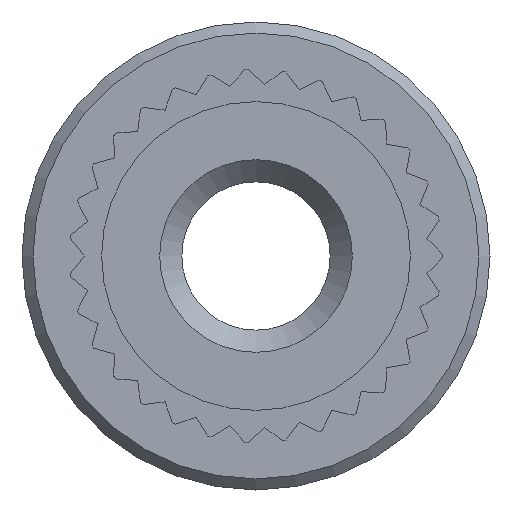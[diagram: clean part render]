
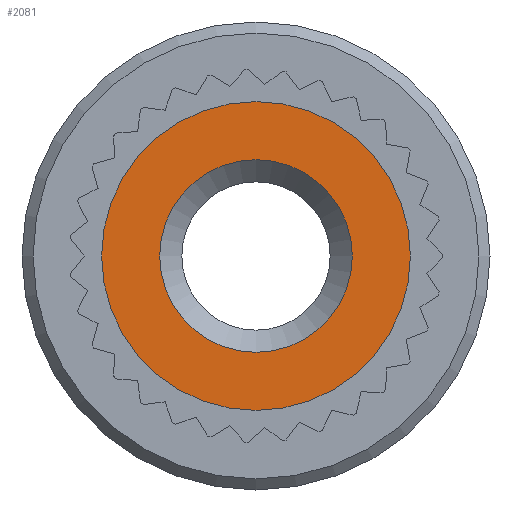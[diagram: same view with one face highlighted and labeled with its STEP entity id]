
A CAD part, front view. The second image highlights one B-rep face of the part: STEP entity #2081.
In plain terms, the highlighted planar face has unit normal (0, -1, 0).
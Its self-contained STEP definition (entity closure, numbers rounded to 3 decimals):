
#18=FACE_BOUND('',#331,.T.);
#84=PLANE('',#2284);
#221=FACE_OUTER_BOUND('',#330,.T.);
#330=EDGE_LOOP('',(#1957));
#331=EDGE_LOOP('',(#1958));
#861=CIRCLE('',#2283,1.307);
#862=CIRCLE('',#2285,2.095);
#1062=VERTEX_POINT('',#3480);
#1063=VERTEX_POINT('',#3484);
#1361=EDGE_CURVE('',#1062,#1062,#861,.T.);
#1363=EDGE_CURVE('',#1063,#1063,#862,.T.);
#1957=ORIENTED_EDGE('',*,*,#1363,.F.);
#1958=ORIENTED_EDGE('',*,*,#1361,.F.);
#2081=ADVANCED_FACE('',(#221,#18),#84,.T.);
#2283=AXIS2_PLACEMENT_3D('',#3481,#2864,#2865);
#2284=AXIS2_PLACEMENT_3D('',#3483,#2867,#2868);
#2285=AXIS2_PLACEMENT_3D('',#3485,#2869,#2870);
#2864=DIRECTION('center_axis',(0.,-1.,0.));
#2865=DIRECTION('ref_axis',(1.,0.,0.));
#2867=DIRECTION('center_axis',(0.,-1.,0.));
#2868=DIRECTION('ref_axis',(0.,0.,-1.));
#2869=DIRECTION('center_axis',(0.,1.,0.));
#2870=DIRECTION('ref_axis',(1.,0.,0.));
#3480=CARTESIAN_POINT('',(-1.307,0.,0.));
#3481=CARTESIAN_POINT('Origin',(0.,0.,
0.));
#3483=CARTESIAN_POINT('Origin',(-2.095,0.,0.));
#3484=CARTESIAN_POINT('',(2.095,0.,0.));
#3485=CARTESIAN_POINT('Origin',(0.,0.,
0.));
